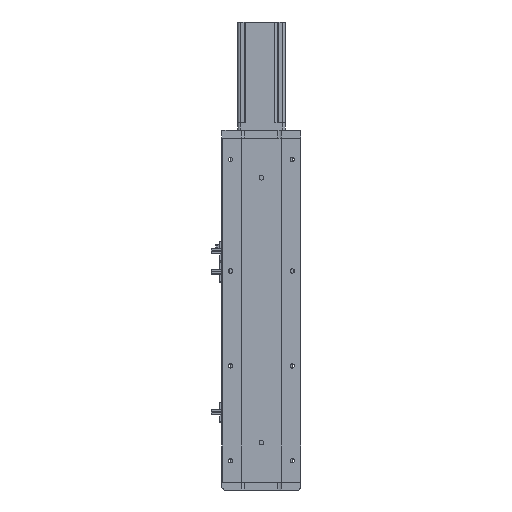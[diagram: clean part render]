
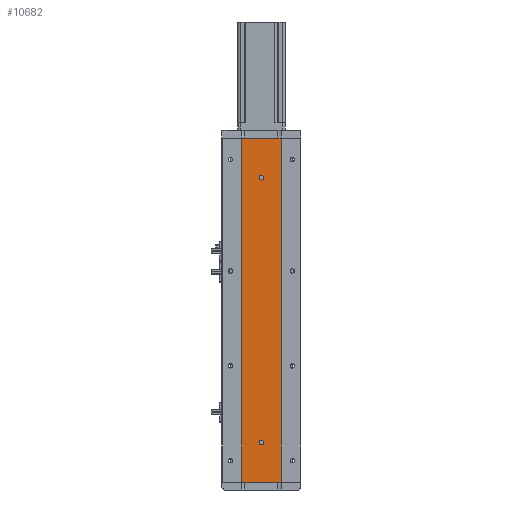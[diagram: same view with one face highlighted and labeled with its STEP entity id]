
A CAD part, left-side view. The second image highlights one B-rep face of the part: STEP entity #10682.
In plain terms, the highlighted planar face has unit normal (-1, 0, 0).
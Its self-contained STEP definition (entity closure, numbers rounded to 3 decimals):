
#324 = FACE_BOUND ( 'NONE', #12336, .T. ) ;
#693 = CARTESIAN_POINT ( 'NONE',  ( -18.926, -24.785, 435. ) ) ;
#820 = CARTESIAN_POINT ( 'NONE',  ( -18.926, -24.785, 0. ) ) ;
#989 = PLANE ( 'NONE',  #24535 ) ;
#1141 = CARTESIAN_POINT ( 'NONE',  ( -18.926, 0., 382. ) ) ;
#1939 = EDGE_CURVE ( 'NONE', #18244, #5568, #6466, .T. ) ;
#2584 = EDGE_CURVE ( 'NONE', #14569, #20082, #3746, .T. ) ;
#2850 = DIRECTION ( 'NONE',  ( 0., 0., -1. ) ) ;
#2907 = AXIS2_PLACEMENT_3D ( 'NONE', #6248, #20960, #8383 ) ;
#3116 = CARTESIAN_POINT ( 'NONE',  ( -18.926, 24.785, 435. ) ) ;
#3359 = CARTESIAN_POINT ( 'NONE',  ( -18.926, 0., 50. ) ) ;
#3746 = CIRCLE ( 'NONE', #3977, 3. ) ;
#3977 = AXIS2_PLACEMENT_3D ( 'NONE', #11803, #26476, #13901 ) ;
#4634 = VERTEX_POINT ( 'NONE', #1141 ) ;
#4708 = CARTESIAN_POINT ( 'NONE',  ( -18.926, 0., 47. ) ) ;
#4737 = DIRECTION ( 'NONE',  ( -1., 0., 0. ) ) ;
#4794 = EDGE_CURVE ( 'NONE', #20082, #14569, #18108, .T. ) ;
#5294 = DIRECTION ( 'NONE',  ( 0., 0., -1. ) ) ;
#5358 = FACE_OUTER_BOUND ( 'NONE', #13631, .T. ) ;
#5546 = DIRECTION ( 'NONE',  ( 0., 0., 1. ) ) ;
#5568 = VERTEX_POINT ( 'NONE', #820 ) ;
#5641 = CARTESIAN_POINT ( 'NONE',  ( -18.926, 24.785, 0. ) ) ;
#6034 = FACE_BOUND ( 'NONE', #14622, .T. ) ;
#6248 = CARTESIAN_POINT ( 'NONE',  ( -18.926, 0., 385. ) ) ;
#6466 = LINE ( 'NONE', #9563, #23242 ) ;
#6581 = DIRECTION ( 'NONE',  ( 0., -1., 0. ) ) ;
#6625 = ORIENTED_EDGE ( 'NONE', *, *, #8444, .F. ) ;
#7674 = DIRECTION ( 'NONE',  ( 0., 0., -1. ) ) ;
#8383 = DIRECTION ( 'NONE',  ( 0., 0., 1. ) ) ;
#8444 = EDGE_CURVE ( 'NONE', #18080, #5568, #12110, .T. ) ;
#8464 = LINE ( 'NONE', #13919, #14700 ) ;
#8905 = ORIENTED_EDGE ( 'NONE', *, *, #4794, .F. ) ;
#9563 = CARTESIAN_POINT ( 'NONE',  ( -18.926, 24.785, 0. ) ) ;
#10103 = AXIS2_PLACEMENT_3D ( 'NONE', #3359, #18141, #5546 ) ;
#10682 = ADVANCED_FACE ( 'NONE', ( #6034, #324, #5358 ), #989, .F. ) ;
#11189 = ORIENTED_EDGE ( 'NONE', *, *, #11981, .F. ) ;
#11433 = VECTOR ( 'NONE', #2850, 1000. ) ;
#11571 = DIRECTION ( 'NONE',  ( 0., -1., 0. ) ) ;
#11803 = CARTESIAN_POINT ( 'NONE',  ( -18.926, 0., 50. ) ) ;
#11817 = CARTESIAN_POINT ( 'NONE',  ( -18.926, 24.785, 435. ) ) ;
#11981 = EDGE_CURVE ( 'NONE', #4634, #24234, #18669, .T. ) ;
#12110 = LINE ( 'NONE', #693, #11433 ) ;
#12179 = ORIENTED_EDGE ( 'NONE', *, *, #1939, .T. ) ;
#12336 = EDGE_LOOP ( 'NONE', ( #12563, #11189 ) ) ;
#12563 = ORIENTED_EDGE ( 'NONE', *, *, #14405, .F. ) ;
#13435 = EDGE_CURVE ( 'NONE', #20506, #18244, #8464, .T. ) ;
#13631 = EDGE_LOOP ( 'NONE', ( #12179, #6625, #24376, #23878 ) ) ;
#13901 = DIRECTION ( 'NONE',  ( 0., 0., 1. ) ) ;
#13919 = CARTESIAN_POINT ( 'NONE',  ( -18.926, 24.785, 435. ) ) ;
#14405 = EDGE_CURVE ( 'NONE', #24234, #4634, #19534, .T. ) ;
#14569 = VERTEX_POINT ( 'NONE', #4708 ) ;
#14622 = EDGE_LOOP ( 'NONE', ( #8905, #19092 ) ) ;
#14700 = VECTOR ( 'NONE', #7674, 1000. ) ;
#15033 = EDGE_CURVE ( 'NONE', #20506, #18080, #19849, .T. ) ;
#17382 = CARTESIAN_POINT ( 'NONE',  ( -18.926, 0., 385. ) ) ;
#17892 = DIRECTION ( 'NONE',  ( 1., 0., 0. ) ) ;
#18080 = VERTEX_POINT ( 'NONE', #21814 ) ;
#18108 = CIRCLE ( 'NONE', #10103, 3. ) ;
#18141 = DIRECTION ( 'NONE',  ( -1., 0., 0. ) ) ;
#18244 = VERTEX_POINT ( 'NONE', #5641 ) ;
#18604 = CARTESIAN_POINT ( 'NONE',  ( -18.926, 0., 388. ) ) ;
#18669 = CIRCLE ( 'NONE', #22449, 3. ) ;
#19092 = ORIENTED_EDGE ( 'NONE', *, *, #2584, .F. ) ;
#19153 = CARTESIAN_POINT ( 'NONE',  ( -18.926, 24.785, 435. ) ) ;
#19477 = DIRECTION ( 'NONE',  ( 0., 0., 1. ) ) ;
#19534 = CIRCLE ( 'NONE', #2907, 3. ) ;
#19849 = LINE ( 'NONE', #19153, #24830 ) ;
#20082 = VERTEX_POINT ( 'NONE', #20527 ) ;
#20506 = VERTEX_POINT ( 'NONE', #11817 ) ;
#20527 = CARTESIAN_POINT ( 'NONE',  ( -18.926, 0., 53. ) ) ;
#20960 = DIRECTION ( 'NONE',  ( -1., 0., 0. ) ) ;
#21814 = CARTESIAN_POINT ( 'NONE',  ( -18.926, -24.785, 435. ) ) ;
#22449 = AXIS2_PLACEMENT_3D ( 'NONE', #17382, #4737, #19477 ) ;
#23242 = VECTOR ( 'NONE', #11571, 1000. ) ;
#23878 = ORIENTED_EDGE ( 'NONE', *, *, #13435, .T. ) ;
#24234 = VERTEX_POINT ( 'NONE', #18604 ) ;
#24376 = ORIENTED_EDGE ( 'NONE', *, *, #15033, .F. ) ;
#24535 = AXIS2_PLACEMENT_3D ( 'NONE', #3116, #17892, #5294 ) ;
#24830 = VECTOR ( 'NONE', #6581, 1000. ) ;
#26476 = DIRECTION ( 'NONE',  ( -1., 0., 0. ) ) ;
